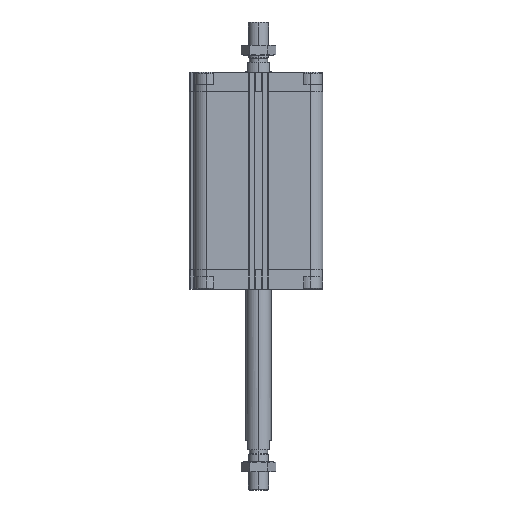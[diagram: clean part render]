
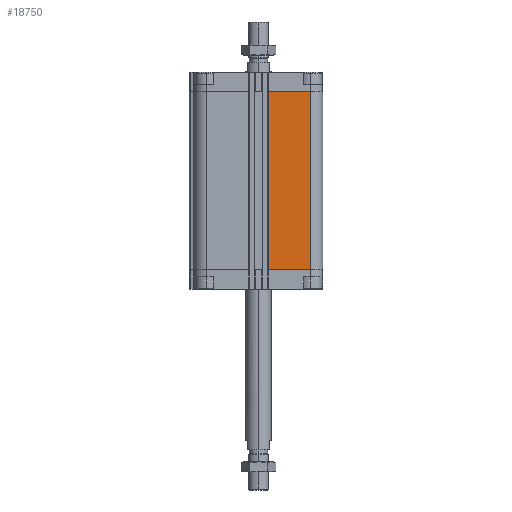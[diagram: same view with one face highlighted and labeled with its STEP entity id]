
A CAD part, left-side view. The second image highlights one B-rep face of the part: STEP entity #18750.
In plain terms, the highlighted planar face has unit normal (-1, 0, 0).
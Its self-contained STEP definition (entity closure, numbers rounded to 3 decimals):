
#92 = VERTEX_POINT ( 'NONE', #18466 ) ;
#205 = CARTESIAN_POINT ( 'NONE',  ( -64., -9.95, -197. ) ) ;
#1105 = CARTESIAN_POINT ( 'NONE',  ( -64., -9.95, -197. ) ) ;
#2289 = LINE ( 'NONE', #14765, #7853 ) ;
#4175 = DIRECTION ( 'NONE',  ( 0., 0., 1. ) ) ;
#4710 = LINE ( 'NONE', #1105, #22051 ) ;
#5152 = VECTOR ( 'NONE', #4175, 1000. ) ;
#6600 = ORIENTED_EDGE ( 'NONE', *, *, #15170, .T. ) ;
#6713 = ORIENTED_EDGE ( 'NONE', *, *, #8107, .F. ) ;
#7215 = ORIENTED_EDGE ( 'NONE', *, *, #22857, .T. ) ;
#7295 = PLANE ( 'NONE',  #21591 ) ;
#7853 = VECTOR ( 'NONE', #16619, 1000. ) ;
#7903 = CARTESIAN_POINT ( 'NONE',  ( -64., -51.5, -197. ) ) ;
#8107 = EDGE_CURVE ( 'NONE', #9793, #92, #2289, .T. ) ;
#8198 = CARTESIAN_POINT ( 'NONE',  ( -64., -9.95, -19.5 ) ) ;
#8334 = EDGE_LOOP ( 'NONE', ( #6713, #8755, #6600, #7215 ) ) ;
#8755 = ORIENTED_EDGE ( 'NONE', *, *, #22097, .F. ) ;
#8836 = LINE ( 'NONE', #17812, #20000 ) ;
#9793 = VERTEX_POINT ( 'NONE', #8198 ) ;
#11198 = CARTESIAN_POINT ( 'NONE',  ( -64., -51.5, -197. ) ) ;
#11707 = DIRECTION ( 'NONE',  ( 0., -1., 0. ) ) ;
#12550 = VERTEX_POINT ( 'NONE', #18697 ) ;
#13208 = VERTEX_POINT ( 'NONE', #11198 ) ;
#14765 = CARTESIAN_POINT ( 'NONE',  ( -64., -9.95, -19.5 ) ) ;
#15170 = EDGE_CURVE ( 'NONE', #12550, #13208, #4710, .T. ) ;
#16619 = DIRECTION ( 'NONE',  ( 0., -1., 0. ) ) ;
#17812 = CARTESIAN_POINT ( 'NONE',  ( -64., -9.95, -197. ) ) ;
#17911 = FACE_OUTER_BOUND ( 'NONE', #8334, .T. ) ;
#18466 = CARTESIAN_POINT ( 'NONE',  ( -64., -51.5, -19.5 ) ) ;
#18697 = CARTESIAN_POINT ( 'NONE',  ( -64., -9.95, -197. ) ) ;
#18750 = ADVANCED_FACE ( 'NONE', ( #17911 ), #7295, .T. ) ;
#19760 = DIRECTION ( 'NONE',  ( -1., 0., 0. ) ) ;
#20000 = VECTOR ( 'NONE', #21306, 1000. ) ;
#20490 = LINE ( 'NONE', #7903, #5152 ) ;
#21306 = DIRECTION ( 'NONE',  ( 0., 0., 1. ) ) ;
#21524 = DIRECTION ( 'NONE',  ( 0., -1., 0. ) ) ;
#21591 = AXIS2_PLACEMENT_3D ( 'NONE', #205, #19760, #21524 ) ;
#22051 = VECTOR ( 'NONE', #11707, 1000. ) ;
#22097 = EDGE_CURVE ( 'NONE', #12550, #9793, #8836, .T. ) ;
#22857 = EDGE_CURVE ( 'NONE', #13208, #92, #20490, .T. ) ;
